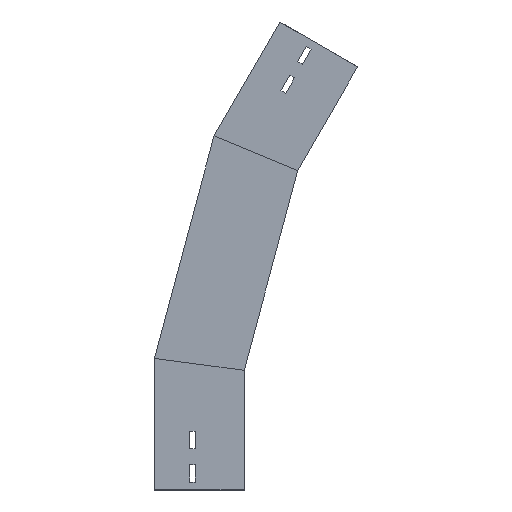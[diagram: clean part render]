
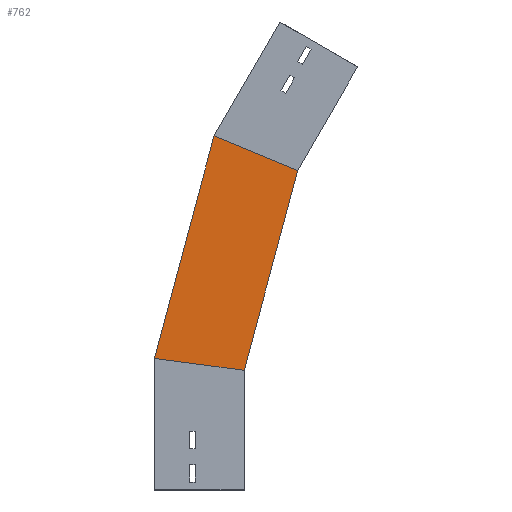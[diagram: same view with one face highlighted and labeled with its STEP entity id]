
A CAD part, left-side view. The second image highlights one B-rep face of the part: STEP entity #762.
In plain terms, the highlighted planar face has unit normal (-1, 0, 0) as drawn and (1, 0, 0) by its records, which use the part's own axes.
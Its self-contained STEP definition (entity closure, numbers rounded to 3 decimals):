
#34 = VECTOR ( 'NONE', #777, 1000. ) ;
#140 = DIRECTION ( 'NONE',  ( 0., -0.991, -0.131 ) ) ;
#146 = LINE ( 'NONE', #585, #889 ) ;
#178 = CARTESIAN_POINT ( 'NONE',  ( 0., 112.5, 164.811 ) ) ;
#242 = ORIENTED_EDGE ( 'NONE', *, *, #408, .T. ) ;
#262 = PLANE ( 'NONE',  #939 ) ;
#273 = VERTEX_POINT ( 'NONE', #1270 ) ;
#287 = VECTOR ( 'NONE', #304, 1000. ) ;
#304 = DIRECTION ( 'NONE',  ( 0., -0.259, 0.966 ) ) ;
#318 = CARTESIAN_POINT ( 'NONE',  ( 0., 37.799, 443.598 ) ) ;
#321 = VERTEX_POINT ( 'NONE', #1423 ) ;
#408 = EDGE_CURVE ( 'NONE', #1045, #273, #1179, .T. ) ;
#413 = CARTESIAN_POINT ( 'NONE',  ( 0., 4.243, 134.167 ) ) ;
#460 = DIRECTION ( 'NONE',  ( 0., 0., -1. ) ) ;
#499 = VECTOR ( 'NONE', #1318, 1000. ) ;
#536 = CARTESIAN_POINT ( 'NONE',  ( 0., 112.909, 163.284 ) ) ;
#585 = CARTESIAN_POINT ( 'NONE',  ( 0., -19.411, 147.444 ) ) ;
#597 = EDGE_LOOP ( 'NONE', ( #1233, #242, #1440, #1094 ) ) ;
#608 = CARTESIAN_POINT ( 'NONE',  ( 0., 4.243, 134.167 ) ) ;
#635 = EDGE_CURVE ( 'NONE', #792, #1045, #1034, .T. ) ;
#755 = EDGE_CURVE ( 'NONE', #792, #321, #146, .T. ) ;
#762 = ADVANCED_FACE ( 'NONE', ( #1065 ), #262, .T. ) ;
#777 = DIRECTION ( 'NONE',  ( 0., -0.259, 0.966 ) ) ;
#792 = VERTEX_POINT ( 'NONE', #178 ) ;
#889 = VECTOR ( 'NONE', #140, 1000. ) ;
#939 = AXIS2_PLACEMENT_3D ( 'NONE', #608, #1075, #460 ) ;
#1034 = LINE ( 'NONE', #536, #34 ) ;
#1045 = VERTEX_POINT ( 'NONE', #318 ) ;
#1065 = FACE_OUTER_BOUND ( 'NONE', #597, .T. ) ;
#1071 = CARTESIAN_POINT ( 'NONE',  ( 0., -100.244, 386.419 ) ) ;
#1075 = DIRECTION ( 'NONE',  ( 1., 0., 0. ) ) ;
#1094 = ORIENTED_EDGE ( 'NONE', *, *, #755, .F. ) ;
#1179 = LINE ( 'NONE', #1071, #499 ) ;
#1207 = LINE ( 'NONE', #413, #287 ) ;
#1233 = ORIENTED_EDGE ( 'NONE', *, *, #635, .T. ) ;
#1270 = CARTESIAN_POINT ( 'NONE',  ( 0., -67.034, 400.175 ) ) ;
#1318 = DIRECTION ( 'NONE',  ( 0., -0.924, -0.383 ) ) ;
#1423 = CARTESIAN_POINT ( 'NONE',  ( 0., 0., 150. ) ) ;
#1440 = ORIENTED_EDGE ( 'NONE', *, *, #1471, .F. ) ;
#1471 = EDGE_CURVE ( 'NONE', #321, #273, #1207, .T. ) ;
